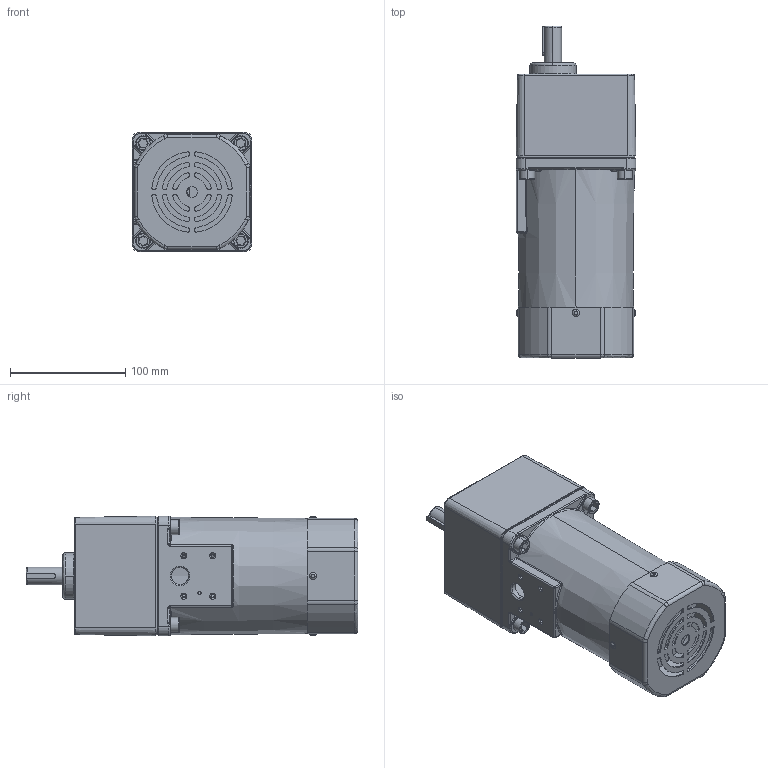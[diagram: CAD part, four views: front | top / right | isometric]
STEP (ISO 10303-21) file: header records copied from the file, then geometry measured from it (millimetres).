
FILE_DESCRIPTION (( 'STEP AP214' ), '1' );
FILE_NAME ('100YT200W200WGV22+100GF-10H.STEP', '2017-12-08T04:03:04', ( 'PC' ), ( 'Microsoft' ), 'SwSTEP 2.0', 'SolidWorks 2014', '' );
FILE_SCHEMA (( 'AUTOMOTIVE_DESIGN' ));
Length unit declared in the file: millimetre
Products named in the file (1): 100YT200W200WGV22+100GF-10H
Bounding box: 104 x 288 x 104 mm (x, y, z)
Volume: 594972.6 mm3; surface area: 249200.9 mm2
Topology: 13 solids, 13 shells, 1213 faces, 3143 edges, 1868 vertices
Faces by surface type: cylinder 462, bspline 368, plane 267, cone 108, torus 8
Entity records: 63949 total; most frequent: CARTESIAN_POINT 23090, ORIENTED_EDGE 6022, DIRECTION 5458, EDGE_CURVE 3011, AXIS2_PLACEMENT_3D 2202, VERTEX_POINT 1868, CIRCLE 1356, EDGE_LOOP 1335
